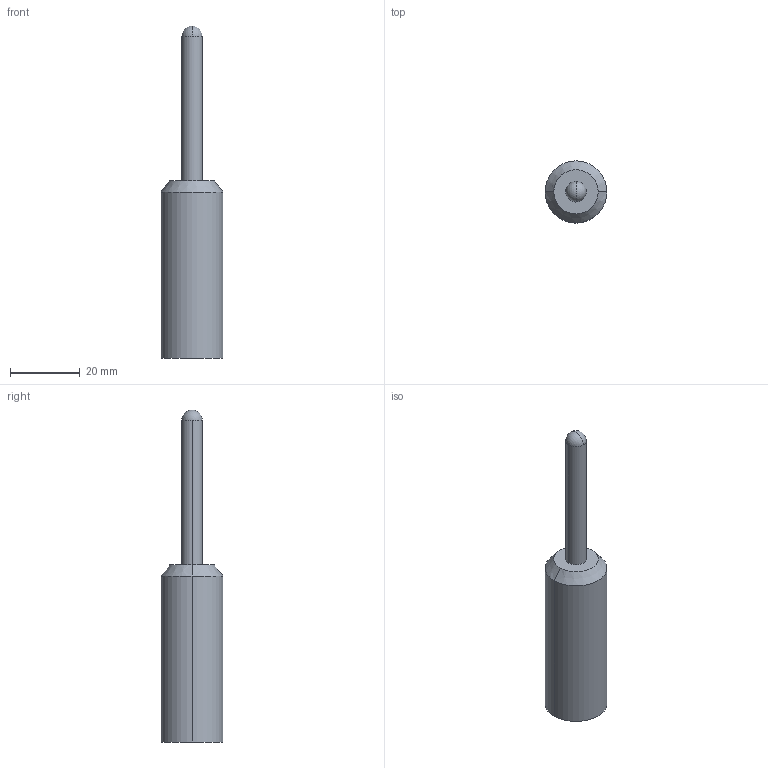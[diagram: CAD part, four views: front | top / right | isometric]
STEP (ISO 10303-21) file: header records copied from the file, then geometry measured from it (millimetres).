
FILE_DESCRIPTION (( 'STEP AP214' ), '1' );
FILE_NAME ('Head.STEP', '2026-09-02T03:13:46', ( '' ), ( '' ), 'SwSTEP 2.0', 'SolidWorks 2025', '' );
FILE_SCHEMA (( 'AUTOMOTIVE_DESIGN' ));
Length unit declared in the file: inch
Products named in the file (1): Head
Bounding box: 17.78 x 17.78 x 95.25 mm (x, y, z)
Volume: 13475.3 mm3; surface area: 4164.3 mm2
Topology: 1 solids, 1 shells, 14 faces, 32 edges, 18 vertices
Faces by surface type: cylinder 6, cone 4, sphere 2, plane 2
Entity records: 401 total; most frequent: DIRECTION 76, CARTESIAN_POINT 61, ORIENTED_EDGE 56, AXIS2_PLACEMENT_3D 33, EDGE_CURVE 28, VERTEX_POINT 18, CIRCLE 18, EDGE_LOOP 16
